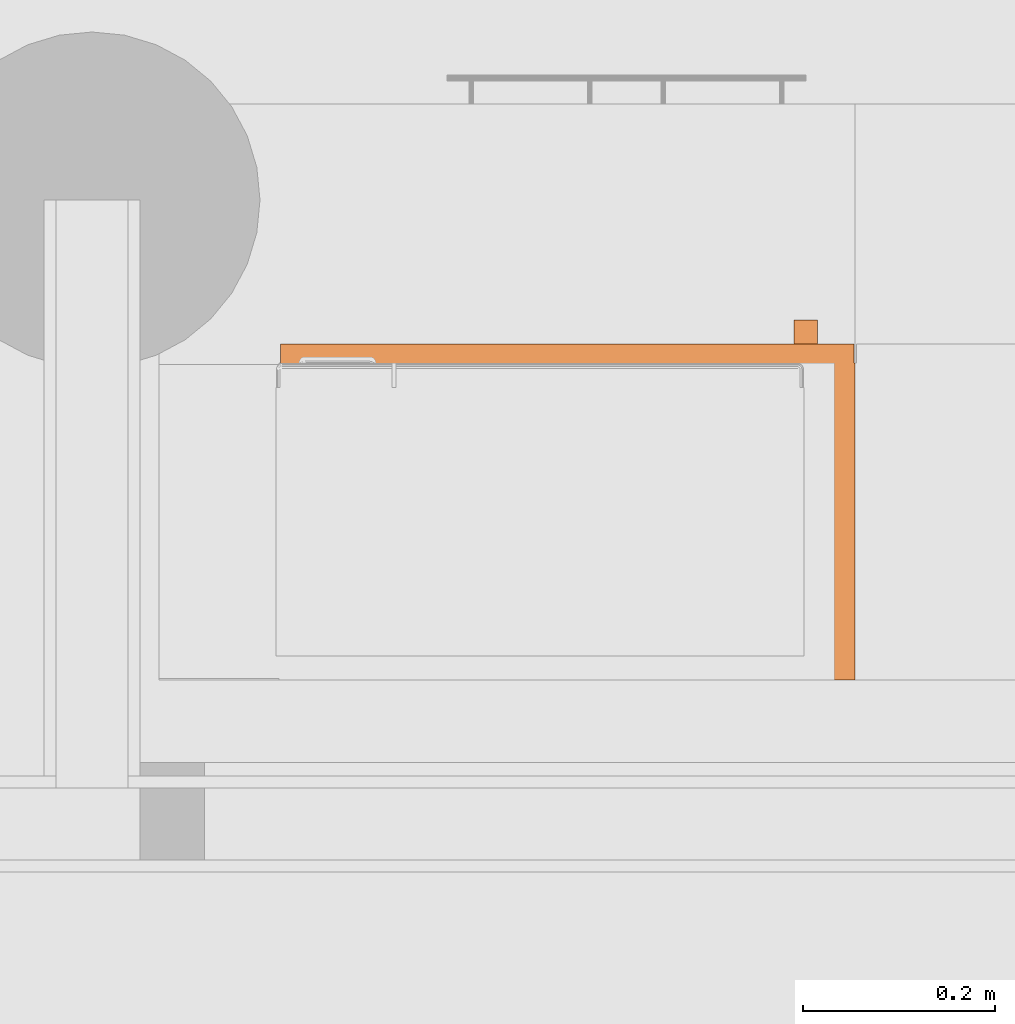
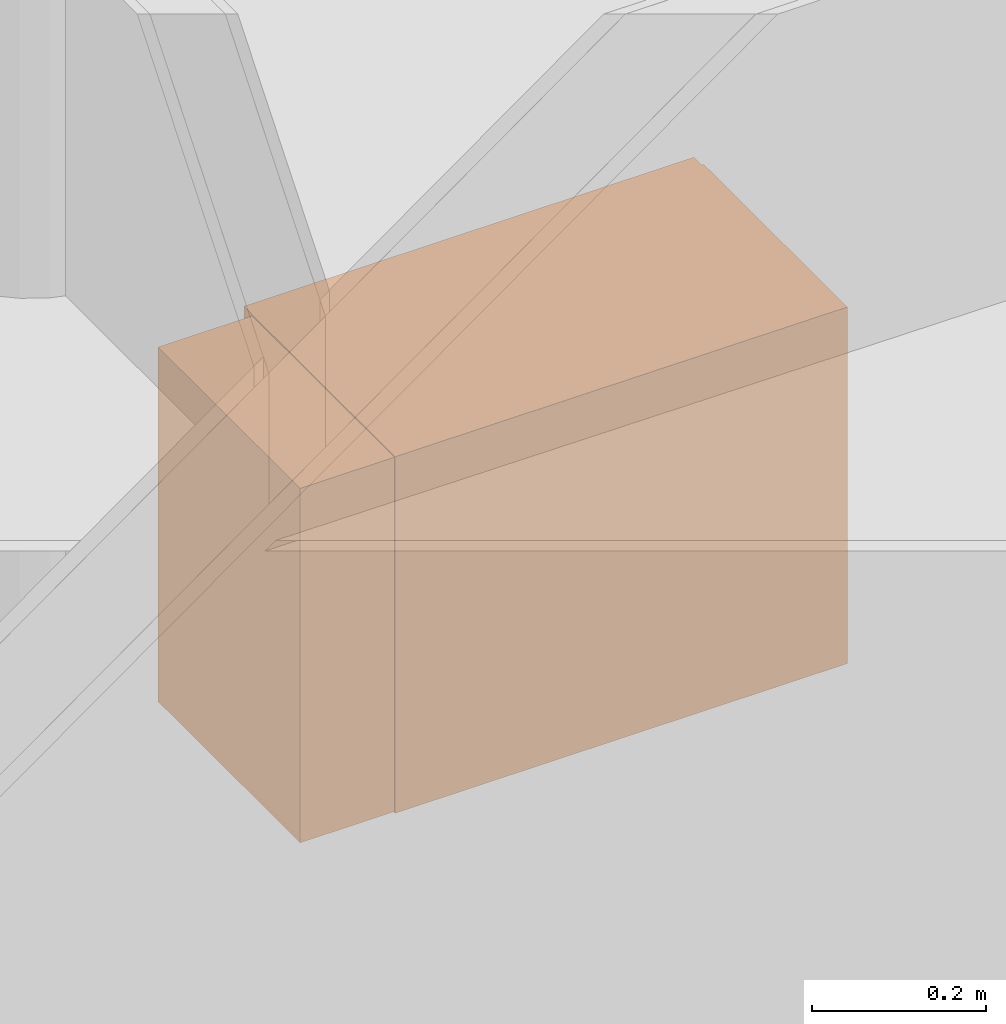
# One storey, part 167 of 167: 1 proxy.
"""IFC2X3 building model written with IfcOpenShell, lengths in millimetres."""

from ifc_helpers import new_model, entity, si_unit, converted_unit, derived_unit, money_unit, direction, frame, origin_with_axes, place, context, subcontext, project, spatial, faceted_brep, type_object, element, save


model = new_model("IFC2X3")

# Units and contexts
model_context = context("Model", 3, precision=0.01, world=origin_with_axes(), true_north=direction((0.0, 1.0)))
plan_context = context("Plan", 3, precision=0.01, world=origin_with_axes(), true_north=direction((0.0, 1.0)))
body_context = subcontext(model_context, "Body", "Model", "MODEL_VIEW")
ifc_project = project(units=[si_unit("LENGTHUNIT", "METRE", prefix="MILLI"), si_unit("AREAUNIT", "SQUARE_METRE"), si_unit("VOLUMEUNIT", "CUBIC_METRE"), converted_unit("PLANEANGLEUNIT", "DEGREE", entity("IfcPlaneAngleMeasure", 0.0174532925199), si_unit("PLANEANGLEUNIT", "RADIAN"), dimensions=[0, 0, 0, 0, 0, 0, 0]), si_unit("SOLIDANGLEUNIT", "STERADIAN"), money_unit("EUR"), converted_unit("TIMEUNIT", "Year", entity("IfcTimeMeasure", 31556926.0), si_unit("TIMEUNIT", "SECOND"), dimensions=[0, 0, 1, 0, 0, 0, 0]), si_unit("MASSUNIT", "GRAM", prefix="KILO"), si_unit("THERMODYNAMICTEMPERATUREUNIT", "DEGREE_CELSIUS"), si_unit("LUMINOUSINTENSITYUNIT", "LUMEN"), si_unit("ENERGYUNIT", "JOULE", prefix="MEGA"), derived_unit("THERMALCONDUCTANCEUNIT", [(si_unit("POWERUNIT", "WATT"), 1), (si_unit("LENGTHUNIT", "METRE"), -1), (si_unit("THERMODYNAMICTEMPERATUREUNIT", "KELVIN"), -1)]), derived_unit("SPECIFICHEATCAPACITYUNIT", [(si_unit("ENERGYUNIT", "JOULE"), 1), (si_unit("MASSUNIT", "GRAM", prefix="KILO"), -1), (si_unit("THERMODYNAMICTEMPERATUREUNIT", "KELVIN"), -1)]), derived_unit("MASSDENSITYUNIT", [(si_unit("MASSUNIT", "GRAM", prefix="KILO"), 1), (si_unit("VOLUMEUNIT", "CUBIC_METRE"), -1)])], contexts=[model_context, plan_context])

# Site, building, storey
site_placement = place(None, origin_with_axes())
site = spatial("IfcSite", under=ifc_project, at=site_placement, Name="Site", CompositionType="ELEMENT")
building_placement = place(site_placement, origin_with_axes())
building = spatial("IfcBuilding", under=site, at=building_placement, Name="Naam gebouw", CompositionType="ELEMENT")
storey_placement = place(building_placement, origin_with_axes())
storey = spatial("IfcBuildingStorey", under=building, at=storey_placement, Name="Begane grond", CompositionType="ELEMENT", Elevation=0.0)

# Proxy
building_element_proxy_type = type_object("IfcBuildingElementProxyType", Name="Kast wand 1D 24", PredefinedType="NOTDEFINED")
proxy_placement = place(storey_placement, frame((36069.9999937, 42199.9999886, 700.07308756), z_axis=(0.0, 0.0, 1.0), x_axis=(-1.0, 0.0, 0.0)))
element("IfcBuildingElementProxy", 1, at=proxy_placement, inside=storey, type_object=building_element_proxy_type, Name="__Object-x", context=body_context, shape_type="Brep", body=[
    faceted_brep([(-125.0, 20.0, 1980.0), (-125.0, 20.0, 2000.0), (-145.0, 20.0, 2000.0), (-145.0, 20.0, 1980.0), (-125.0, 350.0, 1980.0), (-125.0, 350.0, 2000.0), (-145.0, 350.0, 2000.0), (-705.0, 350.0, 2000.0), (-725.0, 350.0, 2000.0), (-725.0, 20.0, 2000.0), (-705.0, 20.0, 2000.0), (-705.0, 20.0, 1980.0), (-725.0, 20.0, 1980.0), (-725.0, 350.0, 1980.0), (-705.0, 350.0, 1980.0), (-145.0, 350.0, 1980.0)], [[[0, 1, 2, 3]], [[4, 5, 1, 0]], [[1, 5, 6, 7, 8, 9, 10, 2]], [[3, 2, 10, 11]], [[0, 3, 11, 12, 13, 14, 15, 4]], [[15, 6, 5, 4]], [[14, 7, 6, 15]], [[13, 8, 7, 14]], [[12, 9, 8, 13]], [[11, 10, 9, 12]]]),
    faceted_brep([(-125.0, 20.0, 1500.0), (-125.0, 20.0, 1520.0), (-145.0, 20.0, 1520.0), (-145.0, 20.0, 1500.0), (-125.0, 350.0, 1500.0), (-125.0, 350.0, 1520.0), (-145.0, 350.0, 1520.0), (-705.0, 350.0, 1520.0), (-725.0, 350.0, 1520.0), (-725.0, 20.0, 1520.0), (-705.0, 20.0, 1520.0), (-705.0, 20.0, 1500.0), (-725.0, 20.0, 1500.0), (-725.0, 350.0, 1500.0), (-705.0, 350.0, 1500.0), (-145.0, 350.0, 1500.0)], [[[0, 1, 2, 3]], [[4, 5, 1, 0]], [[1, 5, 6, 7, 8, 9, 10, 2]], [[3, 2, 10, 11]], [[0, 3, 11, 12, 13, 14, 15, 4]], [[15, 6, 5, 4]], [[14, 7, 6, 15]], [[13, 8, 7, 14]], [[12, 9, 8, 13]], [[11, 10, 9, 12]]]),
    faceted_brep([(-125.0, 20.0, 1520.0), (-125.0, 20.0, 1980.0), (-145.0, 20.0, 1980.0), (-145.0, 20.0, 1520.0), (-125.0, 350.0, 1520.0), (-125.0, 350.0, 1980.0), (-725.0, 350.0, 1980.0), (-725.0, 20.0, 1980.0), (-705.0, 20.0, 1980.0), (-705.0, 330.0, 1980.0), (-145.0, 330.0, 1980.0), (-145.0, 330.0, 1520.0), (-705.0, 330.0, 1520.0), (-705.0, 20.0, 1520.0), (-725.0, 20.0, 1520.0), (-725.0, 350.0, 1520.0)], [[[0, 1, 2, 3]], [[4, 5, 1, 0]], [[1, 5, 6, 7, 8, 9, 10, 2]], [[3, 2, 10, 11]], [[0, 3, 11, 12, 13, 14, 15, 4]], [[15, 6, 5, 4]], [[14, 7, 6, 15]], [[13, 8, 7, 14]], [[12, 9, 8, 13]], [[11, 10, 9, 12]]]),
    faceted_brep([(-705.0, 20.0, 1730.0), (-705.0, 20.0, 1750.0), (-705.0, 330.0, 1750.0), (-705.0, 330.0, 1730.0), (-145.0, 20.0, 1730.0), (-145.0, 20.0, 1750.0), (-145.0, 330.0, 1750.0), (-145.0, 330.0, 1730.0)], [[[0, 1, 2, 3]], [[4, 5, 1, 0]], [[1, 5, 6, 2]], [[3, 2, 6, 7]], [[0, 3, 7, 4]], [[7, 6, 5, 4]]]),
    faceted_brep([(-126.5, 20.0, 1501.5), (-126.5, 0.0, 1501.5), (-723.5, 0.0, 1501.5), (-723.5, 20.0, 1501.5), (-126.5, 20.0, 1998.5), (-126.5, 0.0, 1998.5), (-723.5, 0.0, 1998.5), (-723.5, 20.0, 1998.5)], [[[0, 1, 2, 3]], [[4, 5, 1, 0]], [[1, 5, 6, 2]], [[3, 2, 6, 7]], [[0, 3, 7, 4]], [[7, 6, 5, 4]]]),
    faceted_brep([(-685.091109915, 0.0, 1548.39417146), (-685.5, 0.0, 1551.5), (-685.091109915, 0.0, 1554.60582854), (-683.892304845, 0.0, 1557.5), (-681.985281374, 0.0, 1559.98528137), (-679.5, 0.0, 1561.89230485), (-676.605828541, 0.0, 1563.09110992), (-673.5, 0.0, 1563.5), (-670.394171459, 0.0, 1563.09110992), (-667.5, 0.0, 1561.89230485), (-665.014718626, 0.0, 1559.98528137), (-663.107695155, 0.0, 1557.5), (-661.908890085, 0.0, 1554.60582854), (-661.5, 0.0, 1551.5), (-661.908890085, 0.0, 1548.39417146), (-663.107695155, 0.0, 1545.5), (-665.014718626, 0.0, 1543.01471863), (-667.5, 0.0, 1541.10769515), (-670.394171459, 0.0, 1539.90889008), (-673.5, 0.0, 1539.5), (-676.605828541, 0.0, 1539.90889008), (-679.5, 0.0, 1541.10769515), (-681.985281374, 0.0, 1543.01471863), (-683.892304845, 0.0, 1545.5), (-685.091109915, -25.0, 1548.39417146), (-685.5, -25.0, 1551.5), (-685.091109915, -25.0, 1554.60582854), (-683.892304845, -25.0, 1557.5), (-681.985281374, -25.0, 1559.98528137), (-679.5, -25.0, 1561.89230485), (-676.605828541, -25.0, 1563.09110992), (-673.5, -25.0, 1563.5), (-670.394171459, -25.0, 1563.09110992), (-667.5, -25.0, 1561.89230485), (-665.014718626, -25.0, 1559.98528137), (-663.107695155, -25.0, 1557.5), (-661.908890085, -25.0, 1554.60582854), (-661.5, -25.0, 1551.5), (-661.908890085, -25.0, 1548.39417146), (-663.107695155, -25.0, 1545.5), (-665.014718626, -25.0, 1543.01471863), (-667.5, -25.0, 1541.10769515), (-670.394171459, -25.0, 1539.90889008), (-673.5, -25.0, 1539.5), (-676.605828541, -25.0, 1539.90889008), (-679.5, -25.0, 1541.10769515), (-681.985281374, -25.0, 1543.01471863), (-683.892304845, -25.0, 1545.5)], [[[0, 1, 2, 3, 4, 5, 6, 7, 8, 9, 10, 11, 12, 13, 14, 15, 16, 17, 18, 19, 20, 21, 22, 23]], [[0, 24, 25, 1]], [[1, 25, 26, 2]], [[2, 26, 27, 3]], [[3, 27, 28, 4]], [[4, 28, 29, 5]], [[5, 29, 30, 6]], [[6, 30, 31, 7]], [[7, 31, 32, 8]], [[8, 32, 33, 9]], [[9, 33, 34, 10]], [[10, 34, 35, 11]], [[11, 35, 36, 12]], [[12, 36, 37, 13]], [[13, 37, 38, 14]], [[14, 38, 39, 15]], [[15, 39, 40, 16]], [[16, 40, 41, 17]], [[17, 41, 42, 18]], [[18, 42, 43, 19]], [[19, 43, 44, 20]], [[20, 44, 45, 21]], [[21, 45, 46, 22]], [[22, 46, 47, 23]], [[23, 47, 24, 0]], [[24, 47, 46, 45, 44, 43, 42, 41, 40, 39, 38, 37, 36, 35, 34, 33, 32, 31, 30, 29, 28, 27, 26, 25]]]),
    faceted_brep([(-125.0, 348.5, 1501.5), (0.0, 348.5, 1501.5), (0.0, 21.5, 1501.5), (-125.0, 21.5, 1501.5), (-125.0, 348.5, 1998.5), (0.0, 348.5, 1998.5), (0.0, 21.5, 1998.5), (-125.0, 21.5, 1998.5)], [[[0, 1, 2, 3]], [[4, 5, 1, 0]], [[1, 5, 6, 2]], [[3, 2, 6, 7]], [[0, 3, 7, 4]], [[7, 6, 5, 4]]]),
])

save(model, "model.ifc")
